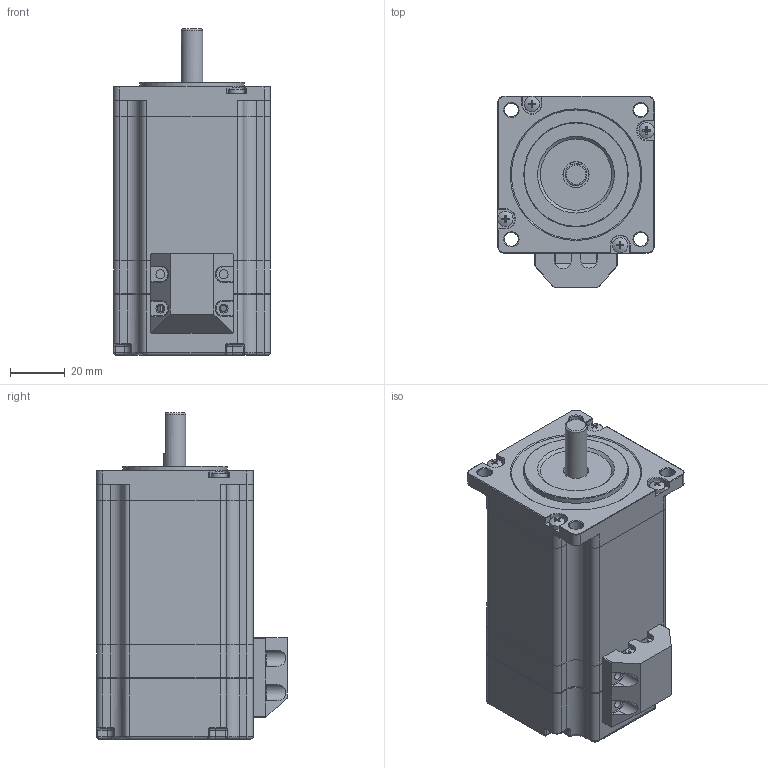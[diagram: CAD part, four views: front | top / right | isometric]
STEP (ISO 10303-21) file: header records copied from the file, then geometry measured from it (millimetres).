
FILE_DESCRIPTION (( 'STEP AP203' ), '1' );
FILE_NAME ('YK257EC76E1.STEP', '2018-10-09T01:27:25', ( '' ), ( '' ), 'SwSTEP 2.0', 'SolidWorks 2014', '' );
FILE_SCHEMA (( 'CONFIG_CONTROL_DESIGN' ));
Length unit declared in the file: millimetre
Products named in the file (18): YK257EC 綴裔; YK257EC 隅赽; YK257EC 坋趼羞攫芛蹟隊; YK257萇儂晤鎢ん欶; YK257EC 粣; YK257EC ヶ裔; YK257EC76E1; 257萇儂萇擢揤啣
Assembly tree (10 placements, depth 2):
  YK257EC 綴裔
  YK257EC 隅赽
  YK257萇儂晤鎢ん欶
  YK257EC 坋趼羞攫芛蹟隊
  YK257EC 坋趼羞攫芛蹟隊
Bounding box: 57.15 x 69.65 x 119 mm (x, y, z)
Volume: 168239.2 mm3; surface area: 72022 mm2
Topology: 10 solids, 10 shells, 1245 faces, 2781 edges, 1566 vertices
Faces by surface type: cone 652, plane 288, cylinder 232, torus 53, bspline 16, sphere 4
Full cylindrical faces by diameter (mm): 2.5 x6, 2.598 x4, 3.2 x12, 3.3 x4, 5 x4, 5.6 x4, 8 x2, 9.5 x2, 10 x1, 22 x2, 26 x1, 34.78 x1, 34.8 x2, 35.4 x2, 38.1 x1, 50 x1, 51.5 x1
Entity records: 21904 total; most frequent: CARTESIAN_POINT 4251, DIRECTION 3488, ORIENTED_EDGE 2990, EDGE_CURVE 1495, AXIS2_PLACEMENT_3D 1367, VERTEX_POINT 1023, EDGE_LOOP 1006, FACE_OUTER_BOUND 767
